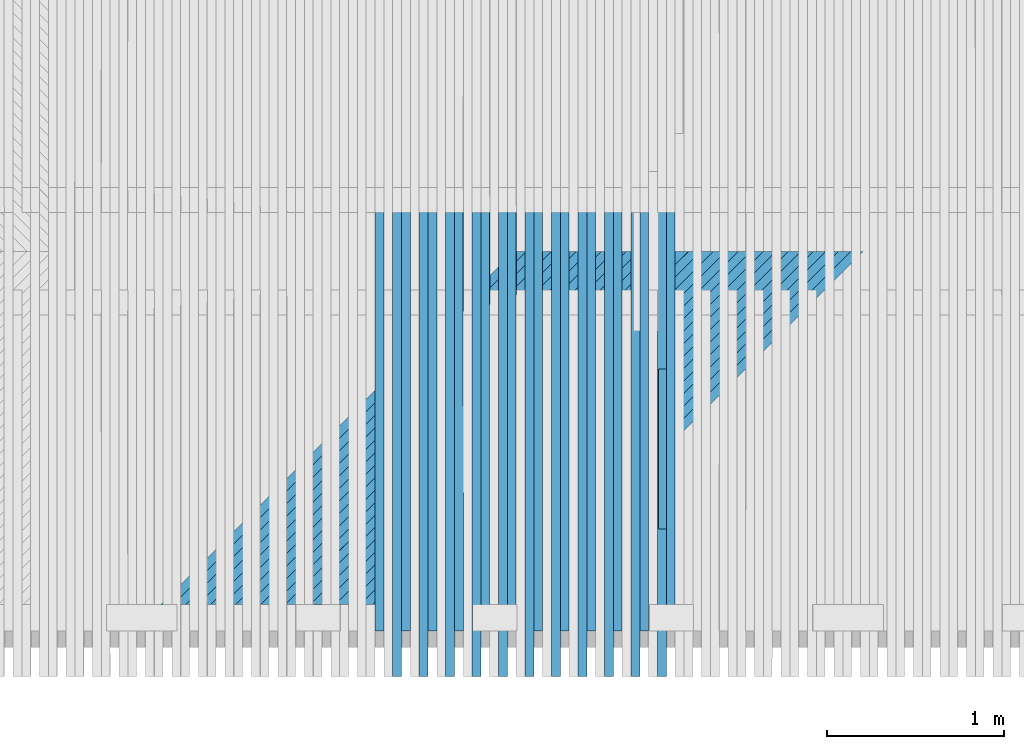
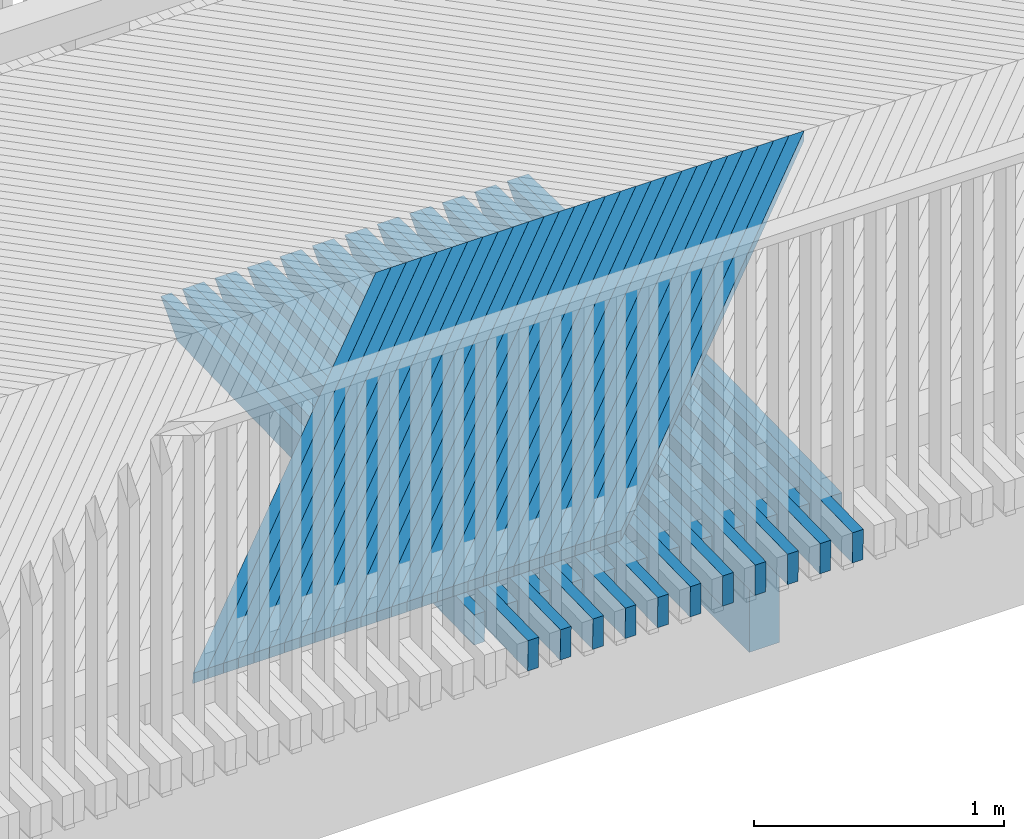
# One storey, part 24 of 47: 52 beams.
"""IFC2X3 building model written with IfcOpenShell, lengths in millimetres."""

from ifc_helpers import new_model, si_unit, frame, origin_with_axes, place, context, subcontext, project, spatial, faceted_brep, material, type_object, element, save


model = new_model("IFC2X3")

# Units and contexts
model_context = context("Model", 3, precision=1e-05, world=origin_with_axes())
body_context = subcontext(model_context, "Body", "Model", "MODEL_VIEW")
ifc_project = project(units=[si_unit("LENGTHUNIT", "METRE", prefix="MILLI"), si_unit("AREAUNIT", "SQUARE_METRE"), si_unit("VOLUMEUNIT", "CUBIC_METRE"), si_unit("MASSUNIT", "GRAM", prefix="KILO"), si_unit("TIMEUNIT", "SECOND"), si_unit("PLANEANGLEUNIT", "RADIAN"), si_unit("SOLIDANGLEUNIT", "STERADIAN"), si_unit("THERMODYNAMICTEMPERATUREUNIT", "DEGREE_CELSIUS"), si_unit("LUMINOUSINTENSITYUNIT", "LUMEN")], contexts=[model_context])

# Site, building, storey
site_placement = place(None, origin_with_axes())
site = spatial("IfcSite", under=ifc_project, at=site_placement, Name="Undefined", CompositionType="ELEMENT")
building_placement = place(site_placement, origin_with_axes())
building = spatial("IfcBuilding", under=site, at=building_placement, Name="Undefined", CompositionType="ELEMENT")
storey_placement = place(building_placement, origin_with_axes())
storey = spatial("IfcBuildingStorey", under=building, at=storey_placement, Name="Undefined", CompositionType="ELEMENT", Elevation=0.0)

# Beams
ifc_material = material(Name="TIMBER/Timber_Undefined")
beam_type_1 = type_object("IfcBeamType", Name="150*50", PredefinedType="NOTDEFINED")
beam_1_placement = place(storey_placement, frame((6449.68042584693, 59958.5561921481, 3085.99243861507), z_axis=(-0.00257227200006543, -0.0199960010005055, 0.9997967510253), x_axis=(-5.14459999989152e-05, 0.999800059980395, 0.0199959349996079)))
element("IfcBeam", 1, at=beam_1_placement, inside=storey, type_object=beam_type_1, material=ifc_material, Name="BEAM", ObjectType="150*50", context=body_context, shape_type="Brep", body=[
    faceted_brep([(6.18456397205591e-09, -24.9999999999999, -75.0000000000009), (-6.1918399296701e-09, -24.9999999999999, 74.9999999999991), (-6.19911588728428e-09, 25.0, 75.0), (6.18456397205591e-09, 24.9999999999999, -75.0), (2633.00494983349, 25.0000000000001, -75.0000000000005), (2633.00495050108, -24.9999999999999, -75.0000000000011), (2768.59248707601, -25.0, 60.5875366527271), (2408.42499905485, -25.0, 74.9999999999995), (2408.42501428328, 25.0000000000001, 74.9999999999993), (2768.5924870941, 25.0, 60.5875375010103)], [[[0, 1, 2, 3]], [[0, 3, 4, 5]], [[1, 0, 5, 6, 7]], [[2, 1, 7, 8]], [[4, 3, 2, 8, 9]], [[5, 4, 9, 6]], [[8, 7, 6, 9]]]),
])
beam_2_placement = place(storey_placement, frame((6349.64747287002, 60216.5046076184, 3090.88548360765), z_axis=(-0.0027383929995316, -0.0199960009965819, 0.99979630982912), x_axis=(-5.47680000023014e-05, 0.999800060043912, 0.0199959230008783)))
element("IfcBeam", 2, at=beam_2_placement, inside=storey, type_object=beam_type_1, material=ifc_material, Name="BEAM", ObjectType="150*50", context=body_context, shape_type="Brep", body=[
    faceted_brep([(6.18456397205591e-09, -24.9999999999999, -75.0000000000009), (-6.1918399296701e-09, -24.9999999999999, 74.9999999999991), (-6.19911588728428e-09, 25.0, 75.0), (6.18456397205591e-09, 24.9999999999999, -75.0), (2375.00494220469, 24.9999999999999, -75.0000000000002), (2375.00494218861, -25.0, -75.0), (2510.59248711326, -25.0, 60.5875455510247), (2150.42518973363, -25.0, 75.0000000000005), (2150.42518840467, 25.0, 74.9999999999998), (2510.59248707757, 25.0, 60.5875454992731)], [[[0, 1, 2, 3]], [[0, 3, 4, 5]], [[1, 0, 5, 6, 7]], [[2, 1, 7, 8]], [[4, 3, 2, 8, 9]], [[5, 4, 9, 6]], [[8, 7, 6, 9]]]),
])
beam_3_placement = place(storey_placement, frame((6599.70873931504, 59958.5561921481, 3086.36013343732), z_axis=(-0.00232309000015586, -0.0199960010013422, 0.999797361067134), x_axis=(-4.64619999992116e-05, 0.999800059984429, 0.0199959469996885)))
element("IfcBeam", 3, at=beam_3_placement, inside=storey, type_object=beam_type_1, material=ifc_material, Name="BEAM", ObjectType="150*50", context=body_context, shape_type="Brep", body=[
    faceted_brep([(6.18456397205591e-09, -24.9999999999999, -75.0000000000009), (-6.1918399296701e-09, -24.9999999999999, 74.9999999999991), (-6.19911588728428e-09, 25.0, 75.0), (6.18456397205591e-09, 24.9999999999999, -75.0), (2633.00494983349, 25.0000000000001, -75.0000000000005), (2633.00495050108, -24.9999999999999, -75.0000000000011), (2768.59248707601, -25.0, 60.5875366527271), (2408.42499905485, -25.0, 74.9999999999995), (2408.42501428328, 25.0000000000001, 74.9999999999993), (2768.5924870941, 25.0, 60.5875375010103)], [[[0, 1, 2, 3]], [[0, 3, 4, 5]], [[1, 0, 5, 6, 7]], [[2, 1, 7, 8]], [[4, 3, 2, 8, 9]], [[5, 4, 9, 6]], [[8, 7, 6, 9]]]),
])
beam_4_placement = place(storey_placement, frame((6499.67700895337, 60216.5046076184, 3091.2781097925), z_axis=(-0.00248921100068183, -0.0199960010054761, 0.999796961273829), x_axis=(-4.97840000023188e-05, 0.999800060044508, 0.0199959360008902)))
element("IfcBeam", 4, at=beam_4_placement, inside=storey, type_object=beam_type_1, material=ifc_material, Name="BEAM", ObjectType="150*50", context=body_context, shape_type="Brep", body=[
    faceted_brep([(6.18456397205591e-09, -24.9999999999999, -75.0000000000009), (-6.1918399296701e-09, -24.9999999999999, 74.9999999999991), (-6.19911588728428e-09, 25.0, 75.0), (6.18456397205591e-09, 24.9999999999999, -75.0), (2375.00494220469, 24.9999999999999, -75.0000000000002), (2375.00494218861, -25.0, -75.0), (2510.59248711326, -25.0, 60.5875455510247), (2150.42518973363, -25.0, 75.0000000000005), (2150.42518840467, 25.0, 74.9999999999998), (2510.59248707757, 25.0, 60.5875454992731)], [[[0, 1, 2, 3]], [[0, 3, 4, 5]], [[1, 0, 5, 6, 7]], [[2, 1, 7, 8]], [[4, 3, 2, 8, 9]], [[5, 4, 9, 6]], [[8, 7, 6, 9]]]),
])
beam_5_placement = place(storey_placement, frame((6749.73713976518, 59958.5561921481, 3086.69043623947), z_axis=(-0.00207390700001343, -0.0199960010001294, 0.999797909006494), x_axis=(-4.14779999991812e-05, 0.99980005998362, 0.0199959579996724)))
element("IfcBeam", 5, at=beam_5_placement, inside=storey, type_object=beam_type_1, material=ifc_material, Name="BEAM", ObjectType="150*50", context=body_context, shape_type="Brep", body=[
    faceted_brep([(6.18456397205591e-09, -24.9999999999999, -75.0000000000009), (-6.1918399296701e-09, -24.9999999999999, 74.9999999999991), (-6.19911588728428e-09, 25.0, 75.0), (6.18456397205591e-09, 24.9999999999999, -75.0), (2633.00494983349, 25.0000000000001, -75.0000000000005), (2633.00495050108, -24.9999999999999, -75.0000000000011), (2768.59248707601, -25.0, 60.5875366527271), (2408.42499905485, -25.0, 74.9999999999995), (2408.42501428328, 25.0000000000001, 74.9999999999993), (2768.5924870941, 25.0, 60.5875375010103)], [[[0, 1, 2, 3]], [[0, 3, 4, 5]], [[1, 0, 5, 6, 7]], [[2, 1, 7, 8]], [[4, 3, 2, 8, 9]], [[5, 4, 9, 6]], [[8, 7, 6, 9]]]),
])
beam_6_placement = place(storey_placement, frame((6649.70663823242, 60216.5046076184, 3091.63334365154), z_axis=(-0.00224002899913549, -0.019996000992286, 0.999797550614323), x_axis=(-4.48000000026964e-05, 0.999800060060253, 0.0199959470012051)))
element("IfcBeam", 6, at=beam_6_placement, inside=storey, type_object=beam_type_1, material=ifc_material, Name="BEAM", ObjectType="150*50", context=body_context, shape_type="Brep", body=[
    faceted_brep([(6.18456397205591e-09, -24.9999999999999, -75.0000000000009), (-6.1918399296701e-09, -24.9999999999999, 74.9999999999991), (-6.19911588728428e-09, 25.0, 75.0), (6.18456397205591e-09, 24.9999999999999, -75.0), (2375.00494220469, 24.9999999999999, -75.0000000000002), (2375.00494218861, -25.0, -75.0), (2510.59248711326, -25.0, 60.5875455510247), (2150.42518973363, -25.0, 75.0000000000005), (2150.42518840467, 25.0, 74.9999999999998), (2510.59248707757, 25.0, 60.5875454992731)], [[[0, 1, 2, 3]], [[0, 3, 4, 5]], [[1, 0, 5, 6, 7]], [[2, 1, 7, 8]], [[4, 3, 2, 8, 9]], [[5, 4, 9, 6]], [[8, 7, 6, 9]]]),
])
beam_7_placement = place(storey_placement, frame((6899.76561787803, 59958.5561921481, 3086.9833470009), z_axis=(-0.00182472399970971, -0.0199960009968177, 0.99979839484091), x_axis=(-3.6494999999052e-05, 0.999800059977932, 0.0199959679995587)))
element("IfcBeam", 7, at=beam_7_placement, inside=storey, type_object=beam_type_1, material=ifc_material, Name="BEAM", ObjectType="150*50", context=body_context, shape_type="Brep", body=[
    faceted_brep([(6.18456397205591e-09, -24.9999999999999, -75.0000000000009), (-6.1918399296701e-09, -24.9999999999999, 74.9999999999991), (-6.19911588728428e-09, 25.0, 75.0), (6.18456397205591e-09, 24.9999999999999, -75.0), (2633.00494983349, 25.0000000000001, -75.0000000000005), (2633.00495050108, -24.9999999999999, -75.0000000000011), (2768.59248707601, -25.0, 60.5875366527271), (2408.42499905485, -25.0, 74.9999999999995), (2408.42501428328, 25.0000000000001, 74.9999999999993), (2768.5924870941, 25.0, 60.5875375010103)], [[[0, 1, 2, 3]], [[0, 3, 4, 5]], [[1, 0, 5, 6, 7]], [[2, 1, 7, 8]], [[4, 3, 2, 8, 9]], [[5, 4, 9, 6]], [[8, 7, 6, 9]]]),
])
beam_8_placement = place(storey_placement, frame((6799.73635138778, 60216.5046076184, 3091.95118516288), z_axis=(-0.00199084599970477, -0.0199960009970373, 0.999798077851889), x_axis=(-3.98170000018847e-05, 0.999800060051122, 0.0199959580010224)))
element("IfcBeam", 8, at=beam_8_placement, inside=storey, type_object=beam_type_1, material=ifc_material, Name="BEAM", ObjectType="150*50", context=body_context, shape_type="Brep", body=[
    faceted_brep([(6.18456397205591e-09, -24.9999999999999, -75.0000000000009), (-6.1918399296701e-09, -24.9999999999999, 74.9999999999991), (-6.19911588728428e-09, 25.0, 75.0), (6.18456397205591e-09, 24.9999999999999, -75.0), (2375.00494220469, 24.9999999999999, -75.0000000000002), (2375.00494218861, -25.0, -75.0), (2510.59248711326, -25.0, 60.5875455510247), (2150.42518973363, -25.0, 75.0000000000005), (2150.42518840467, 25.0, 74.9999999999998), (2510.59248707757, 25.0, 60.5875454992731)], [[[0, 1, 2, 3]], [[0, 3, 4, 5]], [[1, 0, 5, 6, 7]], [[2, 1, 7, 8]], [[4, 3, 2, 8, 9]], [[5, 4, 9, 6]], [[8, 7, 6, 9]]]),
])
beam_9_placement = place(storey_placement, frame((7049.79416433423, 59958.5561921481, 3087.23886570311), z_axis=(-0.00157554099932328, -0.0199960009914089, 0.999798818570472), x_axis=(-3.15109999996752e-05, 0.999800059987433, 0.0199959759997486)))
element("IfcBeam", 9, at=beam_9_placement, inside=storey, type_object=beam_type_1, material=ifc_material, Name="BEAM", ObjectType="150*50", context=body_context, shape_type="Brep", body=[
    faceted_brep([(6.18456397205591e-09, -24.9999999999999, -75.0000000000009), (-6.1918399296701e-09, -24.9999999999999, 74.9999999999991), (-6.19911588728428e-09, 25.0, 75.0), (6.18456397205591e-09, 24.9999999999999, -75.0), (2633.00494983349, 25.0000000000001, -75.0000000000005), (2633.00495050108, -24.9999999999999, -75.0000000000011), (2768.59248707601, -25.0, 60.5875366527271), (2408.42499905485, -25.0, 74.9999999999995), (2408.42501428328, 25.0000000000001, 74.9999999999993), (2768.5924870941, 25.0, 60.5875375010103)], [[[0, 1, 2, 3]], [[0, 3, 4, 5]], [[1, 0, 5, 6, 7]], [[2, 1, 7, 8]], [[4, 3, 2, 8, 9]], [[5, 4, 9, 6]], [[8, 7, 6, 9]]]),
])
beam_10_placement = place(storey_placement, frame((6949.76613910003, 60216.5046076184, 3092.23163430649), z_axis=(-0.00174166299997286, -0.0199960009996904, 0.999798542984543), x_axis=(-3.48330000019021e-05, 0.999800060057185, 0.0199959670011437)))
element("IfcBeam", 10, at=beam_10_placement, inside=storey, type_object=beam_type_1, material=ifc_material, Name="BEAM", ObjectType="150*50", context=body_context, shape_type="Brep", body=[
    faceted_brep([(6.18456397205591e-09, -24.9999999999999, -75.0000000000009), (-6.1918399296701e-09, -24.9999999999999, 74.9999999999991), (-6.19911588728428e-09, 25.0, 75.0), (6.18456397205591e-09, 24.9999999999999, -75.0), (2375.00494220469, 24.9999999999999, -75.0000000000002), (2375.00494218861, -25.0, -75.0), (2510.59248711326, -25.0, 60.5875455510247), (2150.42518973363, -25.0, 75.0000000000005), (2150.42518840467, 25.0, 74.9999999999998), (2510.59248707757, 25.0, 60.5875454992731)], [[[0, 1, 2, 3]], [[0, 3, 4, 5]], [[1, 0, 5, 6, 7]], [[2, 1, 7, 8]], [[4, 3, 2, 8, 9]], [[5, 4, 9, 6]], [[8, 7, 6, 9]]]),
])
beam_11_placement = place(storey_placement, frame((7199.82276981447, 59958.5561921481, 3087.45699233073), z_axis=(-0.00132635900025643, -0.0199960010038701, 0.999799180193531), x_axis=(-2.65269999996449e-05, 0.999800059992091, 0.0199959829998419)))
element("IfcBeam", 11, at=beam_11_placement, inside=storey, type_object=beam_type_1, material=ifc_material, Name="BEAM", ObjectType="150*50", context=body_context, shape_type="Brep", body=[
    faceted_brep([(6.18456397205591e-09, -24.9999999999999, -75.0000000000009), (-6.1918399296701e-09, -24.9999999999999, 74.9999999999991), (-6.19911588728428e-09, 25.0, 75.0), (6.18456397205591e-09, 24.9999999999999, -75.0), (2633.00494983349, 25.0000000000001, -75.0000000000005), (2633.00495050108, -24.9999999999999, -75.0000000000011), (2768.59248707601, -25.0, 60.5875366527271), (2408.42499905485, -25.0, 74.9999999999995), (2408.42501428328, 25.0000000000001, 74.9999999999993), (2768.5924870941, 25.0, 60.5875375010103)], [[[0, 1, 2, 3]], [[0, 3, 4, 5]], [[1, 0, 5, 6, 7]], [[2, 1, 7, 8]], [[4, 3, 2, 8, 9]], [[5, 4, 9, 6]], [[8, 7, 6, 9]]]),
])
beam_12_placement = place(storey_placement, frame((7099.79599204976, 60216.5046076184, 3092.47469106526), z_axis=(-0.00149248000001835, -0.0199960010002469, 0.999798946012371), x_axis=(-2.98490000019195e-05, 0.999800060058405, 0.019995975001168)))
element("IfcBeam", 12, at=beam_12_placement, inside=storey, type_object=beam_type_1, material=ifc_material, Name="BEAM", ObjectType="150*50", context=body_context, shape_type="Brep", body=[
    faceted_brep([(6.18456397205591e-09, -24.9999999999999, -75.0000000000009), (-6.1918399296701e-09, -24.9999999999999, 74.9999999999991), (-6.19911588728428e-09, 25.0, 75.0), (6.18456397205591e-09, 24.9999999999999, -75.0), (2375.00494220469, 24.9999999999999, -75.0000000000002), (2375.00494218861, -25.0, -75.0), (2510.59248711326, -25.0, 60.5875455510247), (2150.42518973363, -25.0, 75.0000000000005), (2150.42518840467, 25.0, 74.9999999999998), (2510.59248707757, 25.0, 60.5875454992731)], [[[0, 1, 2, 3]], [[0, 3, 4, 5]], [[1, 0, 5, 6, 7]], [[2, 1, 7, 8]], [[4, 3, 2, 8, 9]], [[5, 4, 9, 6]], [[8, 7, 6, 9]]]),
])
beam_13_placement = place(storey_placement, frame((7349.85142499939, 59958.5561921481, 3087.63772686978), z_axis=(-0.00107717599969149, -0.0199960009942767, 0.999799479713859), x_axis=(-2.15439999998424e-05, 0.999800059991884, 0.0199959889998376)))
element("IfcBeam", 13, at=beam_13_placement, inside=storey, type_object=beam_type_1, material=ifc_material, Name="BEAM", ObjectType="150*50", context=body_context, shape_type="Brep", body=[
    faceted_brep([(6.18456397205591e-09, -24.9999999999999, -75.0000000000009), (-6.1918399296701e-09, -24.9999999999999, 74.9999999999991), (-6.19911588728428e-09, 25.0, 75.0), (6.18456397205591e-09, 24.9999999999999, -75.0), (2633.00494983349, 25.0000000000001, -75.0000000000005), (2633.00495050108, -24.9999999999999, -75.0000000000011), (2768.59248707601, -25.0, 60.5875366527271), (2408.42499905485, -25.0, 74.9999999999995), (2408.42501428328, 25.0000000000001, 74.9999999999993), (2768.5924870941, 25.0, 60.5875375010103)], [[[0, 1, 2, 3]], [[0, 3, 4, 5]], [[1, 0, 5, 6, 7]], [[2, 1, 7, 8]], [[4, 3, 2, 8, 9]], [[5, 4, 9, 6]], [[8, 7, 6, 9]]]),
])
beam_14_placement = place(storey_placement, frame((7249.82590091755, 60216.5046076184, 3092.68035542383), z_axis=(-0.00124329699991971, -0.0199960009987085, 0.999799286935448), x_axis=(-2.48660000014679e-05, 0.999800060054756, 0.019995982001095)))
element("IfcBeam", 14, at=beam_14_placement, inside=storey, type_object=beam_type_1, material=ifc_material, Name="BEAM", ObjectType="150*50", context=body_context, shape_type="Brep", body=[
    faceted_brep([(6.18456397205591e-09, -24.9999999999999, -75.0000000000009), (-6.1918399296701e-09, -24.9999999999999, 74.9999999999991), (-6.19911588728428e-09, 25.0, 75.0), (6.18456397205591e-09, 24.9999999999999, -75.0), (2375.00494220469, 24.9999999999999, -75.0000000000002), (2375.00494218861, -25.0, -75.0), (2510.59248711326, -25.0, 60.5875455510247), (2150.42518973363, -25.0, 75.0000000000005), (2150.42518840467, 25.0, 74.9999999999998), (2510.59248707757, 25.0, 60.5875454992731)], [[[0, 1, 2, 3]], [[0, 3, 4, 5]], [[1, 0, 5, 6, 7]], [[2, 1, 7, 8]], [[4, 3, 2, 8, 9]], [[5, 4, 9, 6]], [[8, 7, 6, 9]]]),
])
beam_15_placement = place(storey_placement, frame((7499.88012056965, 59958.5561921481, 3087.78106930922), z_axis=(-0.000827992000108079, -0.0199960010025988, 0.999799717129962), x_axis=(-1.6559999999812e-05, 0.99980005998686, 0.0199959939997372)))
element("IfcBeam", 15, at=beam_15_placement, inside=storey, type_object=beam_type_1, material=ifc_material, Name="BEAM", ObjectType="150*50", context=body_context, shape_type="Brep", body=[
    faceted_brep([(6.18456397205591e-09, -24.9999999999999, -75.0000000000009), (-6.1918399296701e-09, -24.9999999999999, 74.9999999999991), (-6.19911588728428e-09, 25.0, 75.0), (6.18456397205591e-09, 24.9999999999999, -75.0), (2633.00494983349, 25.0000000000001, -75.0000000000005), (2633.00495050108, -24.9999999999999, -75.0000000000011), (2768.59248707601, -25.0, 60.5875366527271), (2408.42499905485, -25.0, 74.9999999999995), (2408.42501428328, 25.0000000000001, 74.9999999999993), (2768.5924870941, 25.0, 60.5875375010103)], [[[0, 1, 2, 3]], [[0, 3, 4, 5]], [[1, 0, 5, 6, 7]], [[2, 1, 7, 8]], [[4, 3, 2, 8, 9]], [[5, 4, 9, 6]], [[8, 7, 6, 9]]]),
])
beam_16_placement = place(storey_placement, frame((7399.85585638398, 60216.5046076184, 3092.8486273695), z_axis=(-0.000994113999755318, -0.0199960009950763, 0.999799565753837), x_axis=(-1.9882000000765e-05, 0.999800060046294, 0.0199959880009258)))
element("IfcBeam", 16, at=beam_16_placement, inside=storey, type_object=beam_type_1, material=ifc_material, Name="BEAM", ObjectType="150*50", context=body_context, shape_type="Brep", body=[
    faceted_brep([(6.18456397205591e-09, -24.9999999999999, -75.0000000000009), (-6.1918399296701e-09, -24.9999999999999, 74.9999999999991), (-6.19911588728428e-09, 25.0, 75.0), (6.18456397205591e-09, 24.9999999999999, -75.0), (2375.00494220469, 24.9999999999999, -75.0000000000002), (2375.00494218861, -25.0, -75.0), (2510.59248711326, -25.0, 60.5875455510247), (2150.42518973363, -25.0, 75.0000000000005), (2150.42518840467, 25.0, 74.9999999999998), (2510.59248707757, 25.0, 60.5875454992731)], [[[0, 1, 2, 3]], [[0, 3, 4, 5]], [[1, 0, 5, 6, 7]], [[2, 1, 7, 8]], [[4, 3, 2, 8, 9]], [[5, 4, 9, 6]], [[8, 7, 6, 9]]]),
])
beam_17_placement = place(storey_placement, frame((7649.9088472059, 59958.5561921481, 3087.88701964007), z_axis=(-0.000578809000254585, -0.0199960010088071, 0.999799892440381), x_axis=(-1.15759999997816e-05, 0.999800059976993, 0.0199959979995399)))
element("IfcBeam", 17, at=beam_17_placement, inside=storey, type_object=beam_type_1, material=ifc_material, Name="BEAM", ObjectType="150*50", context=body_context, shape_type="Brep", body=[
    faceted_brep([(6.18456397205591e-09, -24.9999999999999, -75.0000000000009), (-6.1918399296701e-09, -24.9999999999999, 74.9999999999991), (-6.19911588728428e-09, 25.0, 75.0), (6.18456397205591e-09, 24.9999999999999, -75.0), (2633.00494983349, 25.0000000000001, -75.0000000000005), (2633.00495050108, -24.9999999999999, -75.0000000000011), (2768.59248707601, -25.0, 60.5875366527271), (2408.42499905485, -25.0, 74.9999999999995), (2408.42501428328, 25.0000000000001, 74.9999999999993), (2768.5924870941, 25.0, 60.5875375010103)], [[[0, 1, 2, 3]], [[0, 3, 4, 5]], [[1, 0, 5, 6, 7]], [[2, 1, 7, 8]], [[4, 3, 2, 8, 9]], [[5, 4, 9, 6]], [[8, 7, 6, 9]]]),
])
beam_18_placement = place(storey_placement, frame((7549.88584912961, 60216.5046076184, 3092.97950689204), z_axis=(-0.000744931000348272, -0.0199960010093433, 0.999799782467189), x_axis=(-1.48980000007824e-05, 0.99980006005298, 0.0199959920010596)))
element("IfcBeam", 18, at=beam_18_placement, inside=storey, type_object=beam_type_1, material=ifc_material, Name="BEAM", ObjectType="150*50", context=body_context, shape_type="Brep", body=[
    faceted_brep([(6.18456397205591e-09, -24.9999999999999, -75.0000000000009), (-6.1918399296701e-09, -24.9999999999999, 74.9999999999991), (-6.19911588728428e-09, 25.0, 75.0), (6.18456397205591e-09, 24.9999999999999, -75.0), (2375.00494220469, 24.9999999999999, -75.0000000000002), (2375.00494218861, -25.0, -75.0), (2510.59248711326, -25.0, 60.5875455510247), (2150.42518973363, -25.0, 75.0000000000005), (2150.42518840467, 25.0, 74.9999999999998), (2510.59248707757, 25.0, 60.5875454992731)], [[[0, 1, 2, 3]], [[0, 3, 4, 5]], [[1, 0, 5, 6, 7]], [[2, 1, 7, 8]], [[4, 3, 2, 8, 9]], [[5, 4, 9, 6]], [[8, 7, 6, 9]]]),
])
beam_19_placement = place(storey_placement, frame((7799.93759558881, 59958.5561921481, 3087.95557785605), z_axis=(-0.00032962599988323, -0.019996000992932, 0.999800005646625), x_axis=(-6.59299999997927e-06, 0.999800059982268, 0.0199959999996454)))
element("IfcBeam", 19, at=beam_19_placement, inside=storey, type_object=beam_type_1, material=ifc_material, Name="BEAM", ObjectType="150*50", context=body_context, shape_type="Brep", body=[
    faceted_brep([(6.18456397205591e-09, -24.9999999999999, -75.0000000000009), (-6.1918399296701e-09, -24.9999999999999, 74.9999999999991), (-6.19911588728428e-09, 25.0, 75.0), (6.18456397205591e-09, 24.9999999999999, -75.0), (2633.00494983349, 25.0000000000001, -75.0000000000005), (2633.00495050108, -24.9999999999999, -75.0000000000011), (2768.59248707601, -25.0, 60.5875366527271), (2408.42499905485, -25.0, 74.9999999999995), (2408.42501428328, 25.0000000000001, 74.9999999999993), (2768.5924870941, 25.0, 60.5875375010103)], [[[0, 1, 2, 3]], [[0, 3, 4, 5]], [[1, 0, 5, 6, 7]], [[2, 1, 7, 8]], [[4, 3, 2, 8, 9]], [[5, 4, 9, 6]], [[8, 7, 6, 9]]]),
])
beam_20_placement = place(storey_placement, frame((7699.91586983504, 60216.5046076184, 3093.07299398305), z_axis=(-0.000495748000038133, -0.0199960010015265, 0.999799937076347), x_axis=(-9.91500000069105e-06, 0.999800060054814, 0.0199959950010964)))
element("IfcBeam", 20, at=beam_20_placement, inside=storey, type_object=beam_type_1, material=ifc_material, Name="BEAM", ObjectType="150*50", context=body_context, shape_type="Brep", body=[
    faceted_brep([(6.18456397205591e-09, -24.9999999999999, -75.0000000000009), (-6.1918399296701e-09, -24.9999999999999, 74.9999999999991), (-6.19911588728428e-09, 25.0, 75.0), (6.18456397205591e-09, 24.9999999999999, -75.0), (2375.00494220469, 24.9999999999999, -75.0000000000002), (2375.00494218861, -25.0, -75.0), (2510.59248711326, -25.0, 60.5875455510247), (2150.42518973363, -25.0, 75.0000000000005), (2150.42518840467, 25.0, 74.9999999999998), (2510.59248707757, 25.0, 60.5875454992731)], [[[0, 1, 2, 3]], [[0, 3, 4, 5]], [[1, 0, 5, 6, 7]], [[2, 1, 7, 8]], [[4, 3, 2, 8, 9]], [[5, 4, 9, 6]], [[8, 7, 6, 9]]]),
])
beam_21_placement = place(storey_placement, frame((7949.96635639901, 59958.5561921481, 3087.9867439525), z_axis=(-8.04429999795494e-05, -0.0199960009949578, 0.999800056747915), x_axis=(-1.60899999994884e-06, 0.999800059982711, 0.0199960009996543)))
element("IfcBeam", 21, at=beam_21_placement, inside=storey, type_object=beam_type_1, material=ifc_material, Name="BEAM", ObjectType="150*50", context=body_context, shape_type="Brep", body=[
    faceted_brep([(6.18456397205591e-09, -24.9999999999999, -75.0000000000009), (-6.1918399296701e-09, -24.9999999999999, 74.9999999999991), (-6.19911588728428e-09, 25.0, 75.0), (6.18456397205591e-09, 24.9999999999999, -75.0), (2633.00494983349, 25.0000000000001, -75.0000000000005), (2633.00495050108, -24.9999999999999, -75.0000000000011), (2768.59248707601, -25.0, 60.5875366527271), (2408.42499905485, -25.0, 74.9999999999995), (2408.42501428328, 25.0000000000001, 74.9999999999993), (2768.5924870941, 25.0, 60.5875375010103)], [[[0, 1, 2, 3]], [[0, 3, 4, 5]], [[1, 0, 5, 6, 7]], [[2, 1, 7, 8]], [[4, 3, 2, 8, 9]], [[5, 4, 9, 6]], [[8, 7, 6, 9]]]),
])
for number, where, z_axis, x_axis, name in (
    (22, (7849.94590918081, 60216.5046076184, 3093.12908863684), (-0.000246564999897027, -0.0199960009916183, 0.999800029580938), (-4.93100000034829e-06, 0.999800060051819, 0.0199959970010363), "BEAM"),
    (23, (7999.87089478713, 60216.5046076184, 3093.14779083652), (2.44399999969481e-06, -0.0199960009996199, 0.99980005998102), (4.90000000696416e-08, 0.99980006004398, 0.0199959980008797), "BEAM"),
):
    element("IfcBeam", number, at=place(storey_placement, frame(where, z_axis=z_axis, x_axis=x_axis)), inside=storey, type_object=beam_type_1, material=ifc_material, Name=name, ObjectType="150*50", context=body_context, shape_type="Brep", body=[
        faceted_brep([(6.18456397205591e-09, -24.9999999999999, -75.0000000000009), (-6.1918399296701e-09, -24.9999999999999, 74.9999999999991), (-6.19911588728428e-09, 25.0, 75.0), (6.18456397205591e-09, 24.9999999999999, -75.0), (2375.00494220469, 24.9999999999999, -75.0000000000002), (2375.00494218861, -25.0, -75.0), (2510.59248711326, -25.0, 60.5875455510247), (2150.42518973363, -25.0, 75.0000000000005), (2150.42518840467, 25.0, 74.9999999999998), (2510.59248707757, 25.0, 60.5875454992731)], [[[0, 1, 2, 3]], [[0, 3, 4, 5]], [[1, 0, 5, 6, 7]], [[2, 1, 7, 8]], [[4, 3, 2, 8, 9]], [[5, 4, 9, 6]], [[8, 7, 6, 9]]]),
    ])
beam_type_2 = type_object("IfcBeamType", Name="945*140", PredefinedType="NOTDEFINED")
beam_22_placement = place(storey_placement, frame((8000.0, 61697.5, 2542.6979002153), z_axis=(0.0, 0.0, 1.0), x_axis=(0.0, -1.0, 0.0)))
element("IfcBeam", 24, at=beam_22_placement, inside=storey, type_object=beam_type_2, material=ifc_material, Name="PALKKI", ObjectType="945*140", context=body_context, shape_type="Brep", body=[
    faceted_brep([(0.0, 70.0, -472.5), (0.0, 70.0, 472.5), (905.0, 70.0, 472.5), (905.0, 70.0, -472.5), (0.0, -70.0, 472.5), (905.0, -70.0, 472.5), (0.0, -70.0, -472.5), (905.0, -70.0, -472.5)], [[[0, 1, 2, 3]], [[1, 4, 5, 2]], [[4, 6, 7, 5]], [[6, 0, 3, 7]], [[5, 7, 3, 2]], [[6, 4, 1, 0]]]),
])
beam_type_3 = type_object("IfcBeamType", Name="50*50", PredefinedType="NOTDEFINED")
for number, where, z_axis, x_axis, name in (
    (25, (9055.22105242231, 62364.5001003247, 3235.1974014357), (0.707090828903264, -0.706981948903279, -0.0141096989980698), (-0.707122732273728, -0.706948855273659, -0.0141688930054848), "BEAM"),
    (26, (8984.49692042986, 62364.5001003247, 3235.31719474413), (0.707092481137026, -0.706981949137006, -0.0140266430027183), (-0.707121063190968, -0.706948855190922, -0.014251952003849), "BEAM"),
    (27, (8913.77277485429, 62364.5001003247, 3235.42868074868), (0.707094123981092, -0.706981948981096, -0.0139435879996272), (-0.707119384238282, -0.706948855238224, -0.0143350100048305), "BEAM"),
    (28, (8843.04861667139, 62364.5001003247, 3235.53185944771), (0.707095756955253, -0.70698194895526, -0.013860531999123), (-0.7071176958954, -0.706948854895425, -0.0144180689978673), "BEAM"),
    (29, (8772.32444685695, 62364.5001003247, 3235.62673083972), (0.707097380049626, -0.706981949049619, -0.0137774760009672), (-0.707115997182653, -0.70694885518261, -0.0145011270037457), "BEAM"),
    (30, (8701.60026638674, 62364.5001003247, 3235.71329492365), (0.707098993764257, -0.706981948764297, -0.0136944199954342), (-0.707114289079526, -0.706948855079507, -0.0145841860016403), "BEAM"),
    (31, (8630.87607623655, 62364.5001003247, 3235.79155169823), (0.707100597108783, -0.706981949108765, -0.013611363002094), (-0.707112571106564, -0.706948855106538, -0.0146672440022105), "BEAM"),
    (32, (8560.15187738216, 62364.5001003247, 3235.86150116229), (0.707102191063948, -0.706981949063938, -0.0135283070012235), (-0.707110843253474, -0.706948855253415, -0.0147503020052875), "BEAM"),
    (33, (8489.42767079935, 62364.5001003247, 3235.9231433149), (0.707103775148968, -0.706981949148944, -0.0134452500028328), (-0.707109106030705, -0.706948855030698, -0.0148333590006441), "BEAM"),
    (34, (8418.7034574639, 62364.5001003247, 3235.97647815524), (0.707105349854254, -0.706981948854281, -0.0133621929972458), (-0.70710735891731, -0.706948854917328, -0.0149164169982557), "BEAM"),
    (35, (8347.9792383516, 62364.5001003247, 3236.02150568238), (0.707106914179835, -0.706981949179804, -0.0132791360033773), (-0.707105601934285, -0.706948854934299, -0.014999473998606), "BEAM"),
    (36, (8277.25501443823, 62364.5001003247, 3236.05822589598), (0.707108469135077, -0.706981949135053, -0.0131960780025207), (-0.707103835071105, -0.706948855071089, -0.0150825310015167), "BEAM"),
    (37, (8206.53078669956, 62364.5001003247, 3236.08663879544), (0.707110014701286, -0.706981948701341, -0.0131130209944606), (-0.707102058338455, -0.70694885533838, -0.015165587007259), "BEAM"),
    (38, (8135.80655611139, 62364.5001003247, 3236.10674438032), (0.707111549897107, -0.706981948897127, -0.0130299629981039), (-0.707100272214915, -0.706948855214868, -0.0152486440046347), "BEAM"),
    (39, (8065.0823236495, 62364.5001003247, 3236.11854265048), (0.70711307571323, -0.706981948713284, -0.0129469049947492), (-0.70709847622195, -0.706948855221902, -0.0153317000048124), "BEAM"),
    (40, (7994.35809028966, 62364.5001003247, 3236.12203360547), (0.707114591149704, -0.706981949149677, -0.0128638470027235), (-0.707096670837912, -0.706948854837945, -0.0154147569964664), "BEAM"),
    (41, (7923.63385700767, 62364.5001003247, 3236.11721724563), (0.70711609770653, -0.706981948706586, -0.0127807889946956), (-0.707094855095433, -0.706948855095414, -0.0154978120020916), "BEAM"),
    (42, (7852.9096247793, 62364.5001003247, 3236.10409357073), (0.707117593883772, -0.706981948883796, -0.0126977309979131), (-0.707093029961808, -0.706948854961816, -0.0155808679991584), "BEAM"),
    (43, (7782.18539458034, 62364.5001003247, 3236.082662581), (0.707119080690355, -0.706981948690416, -0.0126146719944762), (-0.707091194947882, -0.706948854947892, -0.0156639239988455), "BEAM"),
    (44, (7711.46116738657, 62364.5001003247, 3236.0529242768), (0.707120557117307, -0.706981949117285, -0.012531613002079), (-0.707089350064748, -0.706948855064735, -0.0157469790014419), "BEAM"),
    (45, (7640.73694417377, 62364.5001003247, 3236.01487865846), (0.707122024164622, -0.706981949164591, -0.0124485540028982), (-0.707087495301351, -0.706948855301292, -0.0158300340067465), "BEAM"),
    (46, (7570.01272591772, 62364.5001003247, 3235.96852572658), (0.707123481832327, -0.706981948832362, -0.0123654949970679), (-0.70708563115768, -0.706948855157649, -0.0159130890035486), "BEAM"),
    (47, (7499.28851359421, 62364.5001003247, 3235.91386548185), (0.707124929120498, -0.706981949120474, -0.012282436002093), (-0.707083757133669, -0.706948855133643, -0.015996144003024), "BEAM"),
    (48, (7428.56430817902, 62364.5001003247, 3235.85089792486), (0.707126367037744, -0.706981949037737, -0.0121993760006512), (-0.707081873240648, -0.706948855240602, -0.0160791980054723), "BEAM"),
    (49, (7357.84011064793, 62364.5001003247, 3235.77962305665), (0.707127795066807, -0.706981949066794, -0.0121163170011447), (-0.707079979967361, -0.706948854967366, -0.016162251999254), "BEAM"),
    (50, (7287.11592197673, 62364.5001003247, 3235.70004087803), (0.707129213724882, -0.706981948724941, -0.0120332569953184), (-0.707078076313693, -0.706948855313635, -0.0162453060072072), "BEAM"),
    (51, (7216.39174314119, 62364.5001003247, 3235.61215139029), (0.707130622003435, -0.706981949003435, -0.0119501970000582), (-0.707076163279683, -0.706948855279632, -0.0163283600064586), "BEAM"),
    (52, (7145.6675751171, 62364.5001003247, 3235.51595459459), (0.70713202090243, -0.706981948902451, -0.0118671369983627), (-0.707074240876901, -0.706948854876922, -0.0164114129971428), "BEAM"),
):
    element("IfcBeam", number, at=place(storey_placement, frame(where, z_axis=z_axis, x_axis=x_axis)), inside=storey, type_object=beam_type_3, material=ifc_material, Name=name, ObjectType="50*50", context=body_context, shape_type="Brep", body=[
        faceted_brep([(24.8942457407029, 24.9999999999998, -24.9999999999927), (-25.0086637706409, 24.9999999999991, 25.0), (2804.3406783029, 24.9999999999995, 25.0000000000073), (2854.34301907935, 24.9999999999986, -24.9999999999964), (-26.4222658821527, -25.0000000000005, 25.0000000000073), (2802.92643296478, -25.0000000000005, 25.0000000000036), (23.4806436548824, -25.0000000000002, -25.0), (2852.92877373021, -25.0000000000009, -24.9999999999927)], [[[0, 1, 2, 3]], [[1, 4, 5, 2]], [[4, 6, 7, 5]], [[6, 0, 3, 7]], [[5, 7, 3, 2]], [[6, 4, 1, 0]]]),
    ])

save(model, "model.ifc")
